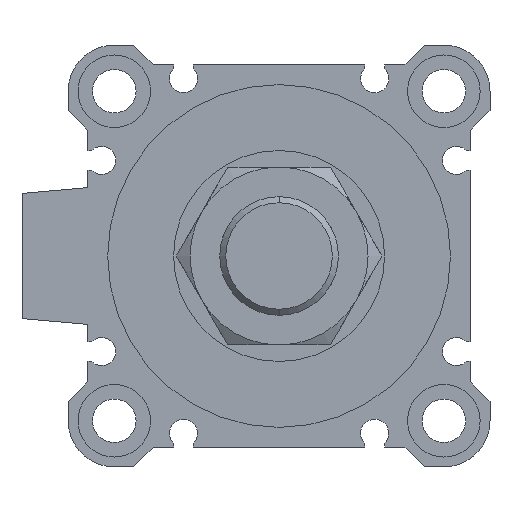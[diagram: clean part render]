
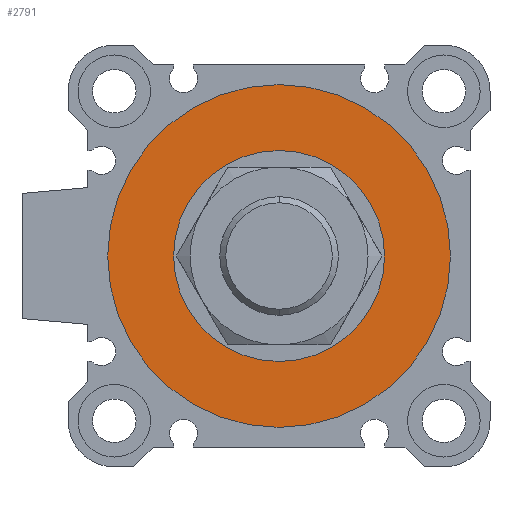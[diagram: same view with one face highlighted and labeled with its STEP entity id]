
A CAD part, left-side view. The second image highlights one B-rep face of the part: STEP entity #2791.
In plain terms, the highlighted planar face has unit normal (-1, 0, 0).
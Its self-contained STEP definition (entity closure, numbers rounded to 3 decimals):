
#253 = VERTEX_POINT ( 'NONE', #3029 ) ;
#358 = EDGE_CURVE ( 'NONE', #4606, #1706, #1099, .T. ) ;
#715 = ORIENTED_EDGE ( 'NONE', *, *, #358, .F. ) ;
#1099 = CIRCLE ( 'NONE', #6095, 26. ) ;
#1706 = VERTEX_POINT ( 'NONE', #7121 ) ;
#1918 = EDGE_CURVE ( 'NONE', #1706, #4606, #3674, .T. ) ;
#2088 = PLANE ( 'NONE',  #2820 ) ;
#2125 = FACE_OUTER_BOUND ( 'NONE', #2801, .T. ) ;
#2393 = CARTESIAN_POINT ( 'NONE',  ( 3., 0., -26. ) ) ;
#2439 = DIRECTION ( 'NONE',  ( 1., 0., 0. ) ) ;
#2603 = ORIENTED_EDGE ( 'NONE', *, *, #1918, .F. ) ;
#2709 = ORIENTED_EDGE ( 'NONE', *, *, #5789, .T. ) ;
#2783 = CARTESIAN_POINT ( 'NONE',  ( 3., 0., 0. ) ) ;
#2791 = ADVANCED_FACE ( 'NONE', ( #2125, #4927 ), #2088, .F. ) ;
#2801 = EDGE_LOOP ( 'NONE', ( #2603, #715 ) ) ;
#2820 = AXIS2_PLACEMENT_3D ( 'NONE', #2783, #6621, #4351 ) ;
#2960 = DIRECTION ( 'NONE',  ( 1., 0., 0. ) ) ;
#3029 = CARTESIAN_POINT ( 'NONE',  ( 3., 0., 16. ) ) ;
#3045 = DIRECTION ( 'NONE',  ( 0., 0., -1. ) ) ;
#3192 = VERTEX_POINT ( 'NONE', #6953 ) ;
#3548 = CARTESIAN_POINT ( 'NONE',  ( 3., 0., 0. ) ) ;
#3587 = AXIS2_PLACEMENT_3D ( 'NONE', #3548, #2960, #6897 ) ;
#3594 = DIRECTION ( 'NONE',  ( 1., 0., 0. ) ) ;
#3674 = CIRCLE ( 'NONE', #5529, 26. ) ;
#3878 = EDGE_CURVE ( 'NONE', #253, #3192, #6100, .T. ) ;
#4022 = DIRECTION ( 'NONE',  ( 1., 0., 0. ) ) ;
#4088 = DIRECTION ( 'NONE',  ( 0., 0., -1. ) ) ;
#4152 = DIRECTION ( 'NONE',  ( 0., 0., -1. ) ) ;
#4351 = DIRECTION ( 'NONE',  ( 0., 1., 0. ) ) ;
#4593 = AXIS2_PLACEMENT_3D ( 'NONE', #5685, #4022, #4088 ) ;
#4606 = VERTEX_POINT ( 'NONE', #2393 ) ;
#4927 = FACE_BOUND ( 'NONE', #7181, .T. ) ;
#5016 = ORIENTED_EDGE ( 'NONE', *, *, #3878, .T. ) ;
#5204 = CARTESIAN_POINT ( 'NONE',  ( 3., 0., 0. ) ) ;
#5529 = AXIS2_PLACEMENT_3D ( 'NONE', #5204, #2439, #4152 ) ;
#5685 = CARTESIAN_POINT ( 'NONE',  ( 3., 0., 0. ) ) ;
#5789 = EDGE_CURVE ( 'NONE', #3192, #253, #6585, .T. ) ;
#5909 = CARTESIAN_POINT ( 'NONE',  ( 3., 0., 0. ) ) ;
#6095 = AXIS2_PLACEMENT_3D ( 'NONE', #5909, #3594, #3045 ) ;
#6100 = CIRCLE ( 'NONE', #4593, 16. ) ;
#6585 = CIRCLE ( 'NONE', #3587, 16. ) ;
#6621 = DIRECTION ( 'NONE',  ( 1., 0., 0. ) ) ;
#6897 = DIRECTION ( 'NONE',  ( 0., 0., -1. ) ) ;
#6953 = CARTESIAN_POINT ( 'NONE',  ( 3., 0., -16. ) ) ;
#7121 = CARTESIAN_POINT ( 'NONE',  ( 3., 0., 26. ) ) ;
#7181 = EDGE_LOOP ( 'NONE', ( #5016, #2709 ) ) ;
